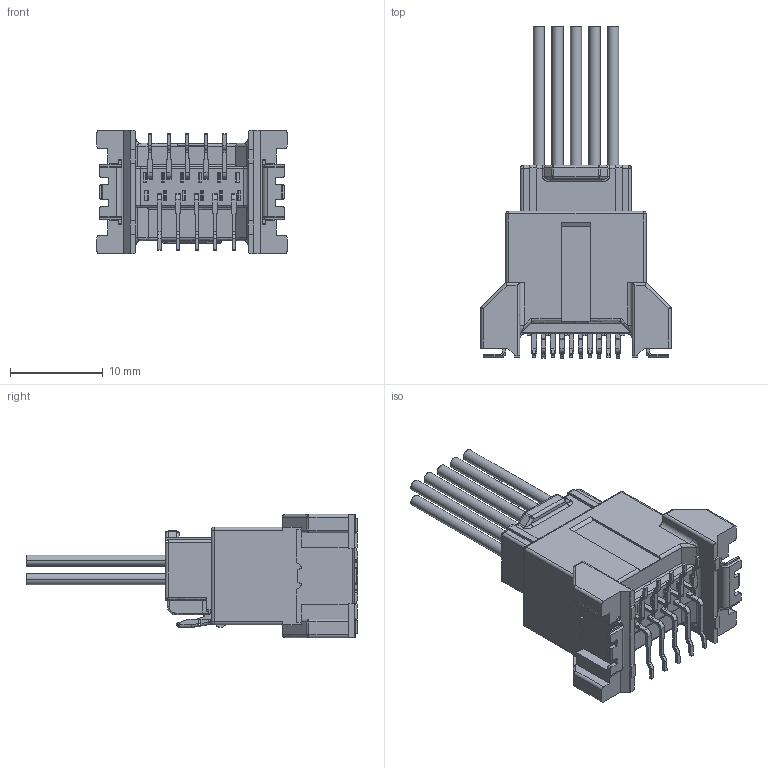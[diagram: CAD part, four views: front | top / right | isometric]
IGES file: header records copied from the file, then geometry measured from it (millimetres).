
Start section: SolidWorks IGES file using analytic representation for surfaces
Global section: file name: C:\Users\08803\Desktop\PDM\ISH全シリーズモデル(STEP)2017.2.6時点\垂直\10P\ISH 10P CONNECTOR VERTICAL.IGS; native system: SolidWorks 2017; preprocessor: SolidWorks 2017; author: 08803; date: 180821.192530; units: millimetre
Bounding box: 20.5 x 35.75 x 13.3 mm (x, y, z)
Surface area: 2415.1 mm2 (no closed solid volume)
Topology: 0 solids, 0 shells, 902 faces, 6264 edges, 6220 vertices
Faces by surface type: bspline 585, revolution 317
